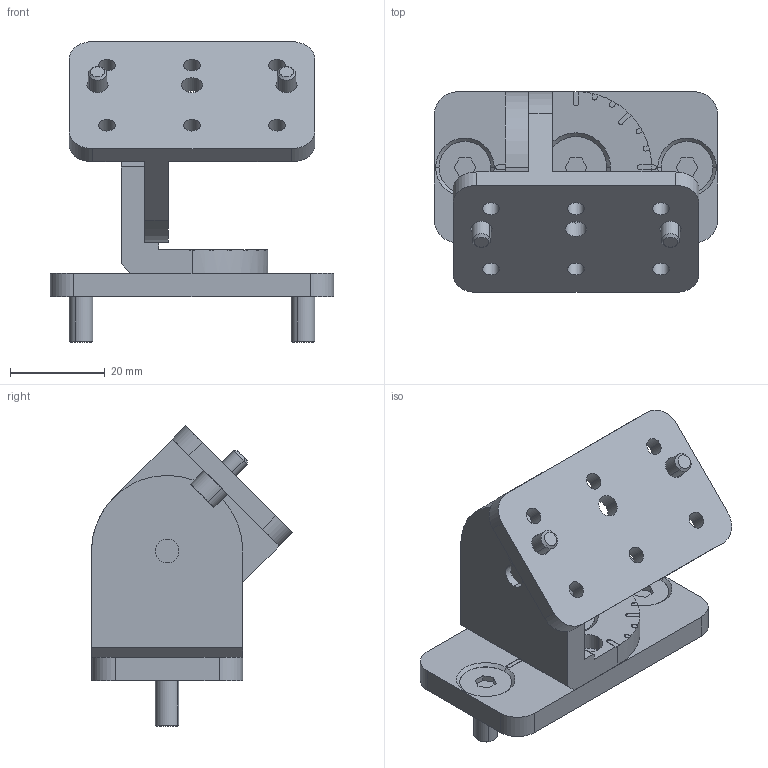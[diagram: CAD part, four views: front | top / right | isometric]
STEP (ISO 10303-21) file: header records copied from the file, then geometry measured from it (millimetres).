
FILE_DESCRIPTION (( 'STEP AP203' ), '1' );
FILE_NAME ('New swivel mount .STEP', '2023-03-15T12:04:54', ( '' ), ( '' ), 'SwSTEP 2.0', 'SolidWorks 2020', '' );
FILE_SCHEMA (( 'CONFIG_CONTROL_DESIGN' ));
Length unit declared in the file: millimetre
Products named in the file (8): 046489; M4-cap-adjust_M4x8; 046490; New swivel mount ; 046491; M6-countersunk-adjust_M3x8; M5-countersunk-adjust_M3x14; 046488
Assembly tree (11 placements, depth 2):
  New swivel mount 
    046488
    046489
    046490
    046491  x2
    M6-countersunk-adjust_M3x8  x2
    M5-countersunk-adjust_M3x14  x2
    M4-cap-adjust_M4x8  x2
Bounding box: 60 x 42.52 x 63.62 mm (x, y, z)
Volume: 40135.1 mm3; surface area: 26028.9 mm2
Topology: 11 solids, 11 shells, 309 faces, 784 edges, 510 vertices
Faces by surface type: plane 143, cylinder 136, cone 30
Entity records: 7790 total; most frequent: DIRECTION 1260, CARTESIAN_POINT 1169, ORIENTED_EDGE 1132, EDGE_CURVE 566, AXIS2_PLACEMENT_3D 461, VERTEX_POINT 370, LINE 338, VECTOR 338
